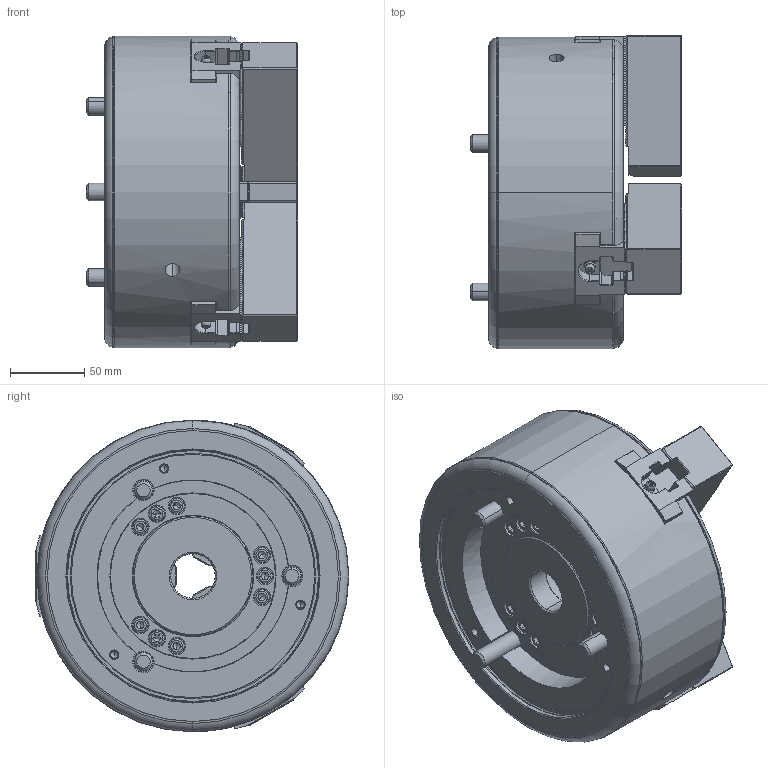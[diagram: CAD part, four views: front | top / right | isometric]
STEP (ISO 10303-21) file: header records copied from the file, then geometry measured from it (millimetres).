
FILE_DESCRIPTION (( 'STEP AP203' ), '1' );
FILE_NAME ('DEV-BR08-OUTSIDE_VIEW_UC.STEP', '2023-11-06T06:35:05', ( '' ), ( '' ), 'SwSTEP 2.0', 'SolidWorks 2022', '' );
FILE_SCHEMA (( 'CONFIG_CONTROL_DESIGN' ));
Length unit declared in the file: millimetre
Products named in the file (9): DEV-BR08-Bアナツキ M12×30; DEV-BR08-Bアナツキボタン M5×10_デフォルト; DEV-BB08_カバー; DEV-BR08-Nishi17 ドローナット(ｸﾘｯｸｽﾄｯﾌﾟ穴変更)_外観用-ﾃﾞﾌｫﾙﾄ; DEV-BR08-Bアナツキ M12×90; DEV-BR08-Nishi14 SJ08B1 ソフトジョー_外観用-ﾃﾞﾌｫﾙﾄ; DEV-BR08-Nishi15 Puls-Tナット_61P417260-1 B-208 Tﾅｯﾄ-ﾃﾞﾌｫﾙﾄ; DEV-BR08-BODY_ASSY^DEV-BR08-Nishi18 クミタテ; DEV-BR08-OUTSIDE_VIEW_UC
Assembly tree (21 placements, depth 2):
  DEV-BR08-OUTSIDE_VIEW_UC
    DEV-BR08-Nishi17 ドローナット(ｸﾘｯｸｽﾄｯﾌﾟ穴変更)_外観用-ﾃﾞﾌｫﾙﾄ
    DEV-BR08-Nishi14 SJ08B1 ソフトジョー_外観用-ﾃﾞﾌｫﾙﾄ  x3
    DEV-BR08-Nishi15 Puls-Tナット_61P417260-1 B-208 Tﾅｯﾄ-ﾃﾞﾌｫﾙﾄ  x3
    DEV-BB08_カバー
    DEV-BR08-Bアナツキ M12×30  x6
    DEV-BR08-Bアナツキボタン M5×10_デフォルト  x3
    DEV-BR08-Bアナツキ M12×90  x3
    DEV-BR08-BODY_ASSY^DEV-BR08-Nishi18 クミタテ
Bounding box: 142.2 x 211.29 x 210 mm (x, y, z)
Volume: 2907658.7 mm3; surface area: 355172.6 mm2
Topology: 21 solids, 37 shells, 3836 faces, 10481 edges, 6764 vertices
Faces by surface type: plane 2762, cylinder 475, cone 345, bspline 146, torus 96, sphere 12
Entity records: 95388 total; most frequent: CARTESIAN_POINT 22991, ORIENTED_EDGE 15352, DIRECTION 13883, EDGE_CURVE 7676, LINE 5745, VECTOR 5745, VERTEX_POINT 4984, AXIS2_PLACEMENT_3D 4069
